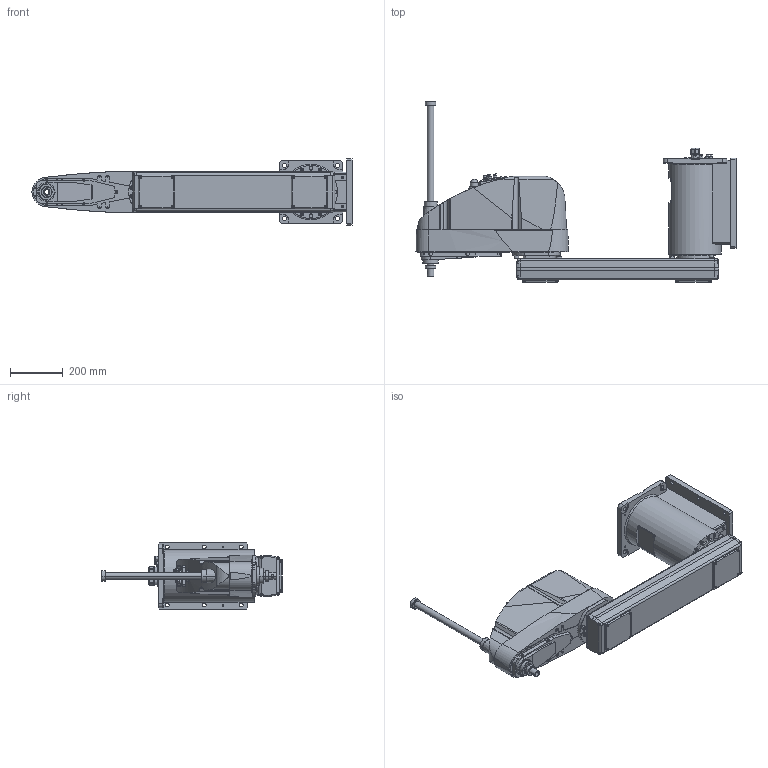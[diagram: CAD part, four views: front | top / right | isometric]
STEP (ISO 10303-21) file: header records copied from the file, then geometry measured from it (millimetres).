
FILE_DESCRIPTION( ( '' ), '1' );
FILE_NAME( '//expscmdclustefs.cadenas.external/client_exchange/iodir/jobs/output/wkb51493389_no0/STEP/G20_A04SW_2_14b.stp', '2012-11-22T09:41:21', ( '' ), ( '' ), ' ', ' ', ' ' );
FILE_SCHEMA( ( 'automotive_design' ) );
Length unit declared in the file: millimetre
Products named in the file (4): 1; 2; 3; 4
Bounding box: 1210.5 x 681.5 x 250 mm (x, y, z)
Volume: 43987990.1 mm3; surface area: 1573273.8 mm2
Topology: 4 solids, 4 shells, 1841 faces, 4459 edges, 2897 vertices
Faces by surface type: plane 1006, cylinder 621, cone 190, torus 23, sphere 1
Entity records: 106521 total; most frequent: CARTESIAN_POINT 10584, DIRECTION 9552, STYLED_ITEM 9189, PRESENTATION_STYLE_ASSIGNMENT 9189, COLOUR_RGB 9189, ORIENTED_EDGE 8894, EDGE_CURVE 4447, CURVE_STYLE 4447
